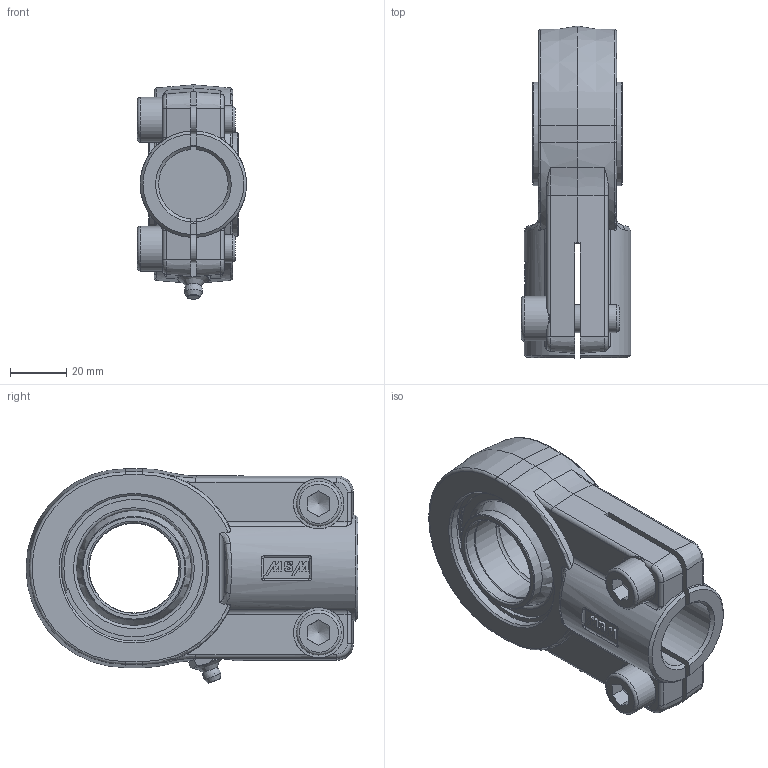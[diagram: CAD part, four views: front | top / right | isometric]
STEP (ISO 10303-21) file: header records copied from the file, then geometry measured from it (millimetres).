
FILE_DESCRIPTION((''),'2;1');
FILE_NAME('H:\WSW\Hydraulikgelenkköpfe\Aktuelle GK Zeichnungen andere Formate\WAPR..CE\WAPR..CE .STP\K-WAPR32CE.stp','2007-12-21T10:53:55',('oliver.joswig'),(''),'Autodesk Inventor 2008','Autodesk Inventor 2008','');
FILE_SCHEMA(('AUTOMOTIVE_DESIGN { 1 0 10303 214 1 1 1 1 }'));
Length unit declared in the file: millimetre
Products named in the file (7): K-WAPR32CE; GEEW_ES_AR mit Nut [Benennung=AR_GEEW32ES][Kugel_dk=22mm][Breite=18mm][Radius_r1s=1mm][Aussendurchmessser=26mm]; GEEW_ES_IR mit Nut [Benennung=IR32LO][Breite=32 mm][Kugel=22 mm][Bund_D=18,5 mm][Freid_b=4,5 mm][Freid_D=16,25 mm][Bohr=16 mm][Fase=45 grd][R_rs=0,6 mm]; F-WAPR32CE; SB_Ringe [Benennung=NG32][Breite=2,2 mm][Aussendurchmesser=53,5 mm][T_Dicke=1,5 mm]; DIN 71412  A  (Feingewinde) AM10 x 1 keg kurz; DIN EN ISO 4762  (Regelgewinde) M10 x 25
Assembly tree (8 placements, depth 2):
  K-WAPR32CE
    GEEW_ES_AR mit Nut [Benennung=AR_GEEW32ES][Kugel_dk=22mm][Breite=18mm][Radius_r1s=1mm][Aussendurchmessser=26mm]
    GEEW_ES_IR mit Nut [Benennung=IR32LO][Breite=32 mm][Kugel=22 mm][Bund_D=18,5 mm][Freid_b=4,5 mm][Freid_D=16,25 mm][Bohr=16 mm][Fase=45 grd][R_rs=0,6 mm]
    F-WAPR32CE
    SB_Ringe [Benennung=NG32][Breite=2,2 mm][Aussendurchmesser=53,5 mm][T_Dicke=1,5 mm]  x2
    DIN 71412  A  (Feingewinde) AM10 x 1 keg kurz
    DIN EN ISO 4762  (Regelgewinde) M10 x 25  x2
Bounding box: 39 x 118.5 x 76.57 mm (x, y, z)
Volume: 149125.8 mm3; surface area: 52898 mm2
Topology: 8 solids, 8 shells, 284 faces, 687 edges, 431 vertices
Faces by surface type: plane 115, cylinder 59, bspline 43, cone 42, torus 22, sphere 3
Full cylindrical faces by diameter (mm): 1.588 x2, 2.569 x2, 5 x1, 10 x3, 16 x2, 28 x1, 32 x2, 32.5 x2, 37 x2, 50.892 x1, 52 x5, 53.5 x2
Entity records: 10184 total; most frequent: CARTESIAN_POINT 4283, ORIENTED_EDGE 1150, DIRECTION 1140, EDGE_CURVE 575, AXIS2_PLACEMENT_3D 452, VERTEX_POINT 392, EDGE_LOOP 357, FACE_OUTER_BOUND 264
